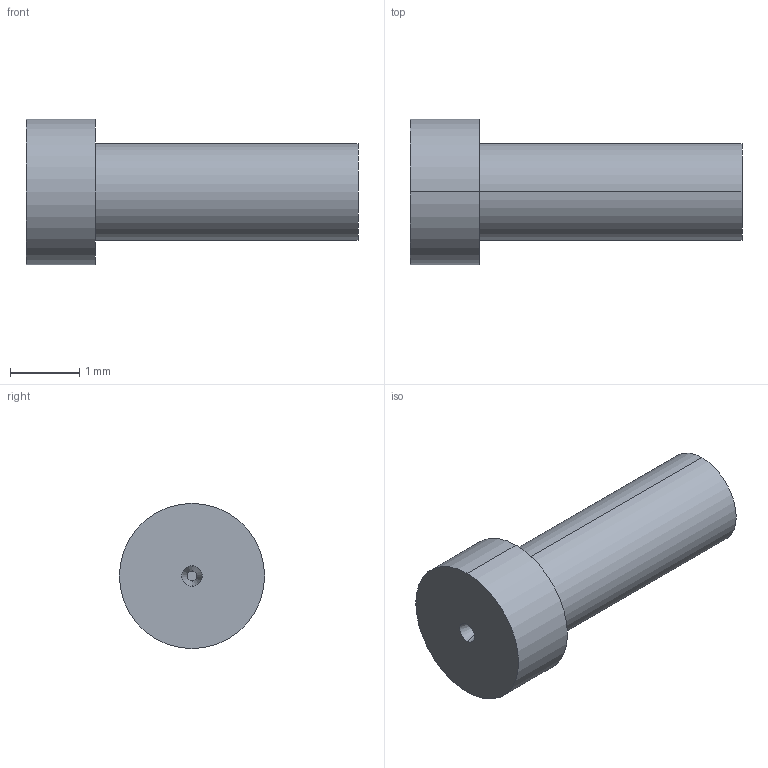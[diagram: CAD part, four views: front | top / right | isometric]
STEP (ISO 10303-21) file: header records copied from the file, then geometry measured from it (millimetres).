
FILE_DESCRIPTION (( 'STEP AP214' ), '1' );
FILE_NAME ('BR1302-4.STEP', '2020-06-15T17:21:51', ( 'August' ), ( '' ), 'SwSTEP 2.0', 'SolidWorks 2018', '' );
FILE_SCHEMA (( 'AUTOMOTIVE_DESIGN' ));
Length unit declared in the file: millimetre
Products named in the file (1): BR1302-4
Bounding box: 4.8 x 2.1 x 2.1 mm (x, y, z)
Volume: 9.3 mm3; surface area: 30.4 mm2
Topology: 1 solids, 1 shells, 10 faces, 18 edges, 12 vertices
Faces by surface type: cylinder 4, plane 4, cone 2
Entity records: 288 total; most frequent: DIRECTION 52, CARTESIAN_POINT 41, ORIENTED_EDGE 36, AXIS2_PLACEMENT_3D 23, EDGE_CURVE 18, CIRCLE 12, EDGE_LOOP 12, VERTEX_POINT 12
